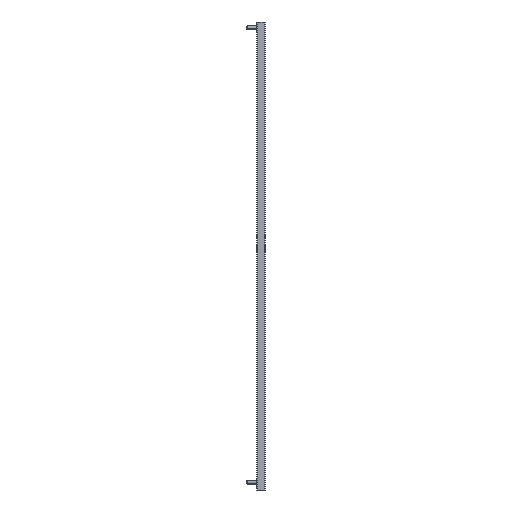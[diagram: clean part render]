
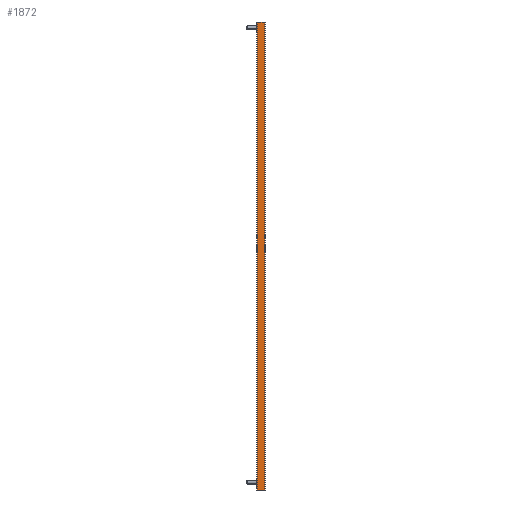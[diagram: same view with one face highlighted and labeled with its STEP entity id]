
A CAD part, left-side view. The second image highlights one B-rep face of the part: STEP entity #1872.
In plain terms, the highlighted planar face has unit normal (-1, 0, 0).
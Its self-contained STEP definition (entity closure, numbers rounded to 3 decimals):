
#30 = CARTESIAN_POINT ( 'NONE',  ( -8., 9.3, 0. ) ) ;
#42 = VERTEX_POINT ( 'NONE', #2204 ) ;
#170 = ORIENTED_EDGE ( 'NONE', *, *, #4101, .T. ) ;
#185 = VECTOR ( 'NONE', #1623, 1000. ) ;
#347 = CARTESIAN_POINT ( 'NONE',  ( -8., 0., 0. ) ) ;
#436 = LINE ( 'NONE', #772, #4328 ) ;
#448 = CARTESIAN_POINT ( 'NONE',  ( -8., 12.5, 679. ) ) ;
#454 = ORIENTED_EDGE ( 'NONE', *, *, #2620, .T. ) ;
#480 = VECTOR ( 'NONE', #4123, 1000. ) ;
#526 = CARTESIAN_POINT ( 'NONE',  ( -8., 0., 679. ) ) ;
#556 = VERTEX_POINT ( 'NONE', #3178 ) ;
#649 = DIRECTION ( 'NONE',  ( 0., -1., 0. ) ) ;
#659 = LINE ( 'NONE', #2710, #480 ) ;
#699 = VERTEX_POINT ( 'NONE', #448 ) ;
#709 = LINE ( 'NONE', #4124, #3362 ) ;
#772 = CARTESIAN_POINT ( 'NONE',  ( -8., 12.5, 679. ) ) ;
#782 = CARTESIAN_POINT ( 'NONE',  ( -8., 12.5, 0. ) ) ;
#840 = LINE ( 'NONE', #3665, #2848 ) ;
#911 = CARTESIAN_POINT ( 'NONE',  ( -8., 0., 679. ) ) ;
#930 = DIRECTION ( 'NONE',  ( 0., 0., 1. ) ) ;
#1213 = CARTESIAN_POINT ( 'NONE',  ( -8., 3.2, 0. ) ) ;
#1390 = EDGE_CURVE ( 'NONE', #4276, #556, #4082, .T. ) ;
#1442 = VECTOR ( 'NONE', #4174, 1000. ) ;
#1479 = VECTOR ( 'NONE', #4353, 1000. ) ;
#1517 = ORIENTED_EDGE ( 'NONE', *, *, #2293, .T. ) ;
#1536 = VERTEX_POINT ( 'NONE', #1213 ) ;
#1539 = ORIENTED_EDGE ( 'NONE', *, *, #1390, .T. ) ;
#1594 = DIRECTION ( 'NONE',  ( 0., -1., 0. ) ) ;
#1607 = ORIENTED_EDGE ( 'NONE', *, *, #1613, .F. ) ;
#1613 = EDGE_CURVE ( 'NONE', #699, #1720, #1694, .T. ) ;
#1623 = DIRECTION ( 'NONE',  ( 0., 1., 0. ) ) ;
#1694 = LINE ( 'NONE', #3774, #4335 ) ;
#1720 = VERTEX_POINT ( 'NONE', #2838 ) ;
#1748 = CARTESIAN_POINT ( 'NONE',  ( -8., 0., 679. ) ) ;
#1872 = ADVANCED_FACE ( 'NONE', ( #2646 ), #2668, .T. ) ;
#1897 = ORIENTED_EDGE ( 'NONE', *, *, #3891, .T. ) ;
#2016 = VERTEX_POINT ( 'NONE', #30 ) ;
#2053 = ORIENTED_EDGE ( 'NONE', *, *, #3648, .F. ) ;
#2169 = DIRECTION ( 'NONE',  ( 0., 0., 1. ) ) ;
#2204 = CARTESIAN_POINT ( 'NONE',  ( -8., 0., 0. ) ) ;
#2293 = EDGE_CURVE ( 'NONE', #2016, #1536, #2370, .T. ) ;
#2370 = LINE ( 'NONE', #347, #1442 ) ;
#2415 = DIRECTION ( 'NONE',  ( 0., -1., 0. ) ) ;
#2429 = VERTEX_POINT ( 'NONE', #782 ) ;
#2512 = ORIENTED_EDGE ( 'NONE', *, *, #2727, .T. ) ;
#2620 = EDGE_CURVE ( 'NONE', #556, #1720, #3324, .T. ) ;
#2646 = FACE_OUTER_BOUND ( 'NONE', #2700, .T. ) ;
#2668 = PLANE ( 'NONE',  #4200 ) ;
#2700 = EDGE_LOOP ( 'NONE', ( #2053, #2512, #1517, #170, #1897, #1539, #454, #1607 ) ) ;
#2710 = CARTESIAN_POINT ( 'NONE',  ( -8., 0., 679. ) ) ;
#2727 = EDGE_CURVE ( 'NONE', #2429, #2016, #709, .T. ) ;
#2838 = CARTESIAN_POINT ( 'NONE',  ( -8., 9.3, 679. ) ) ;
#2848 = VECTOR ( 'NONE', #1594, 1000. ) ;
#3178 = CARTESIAN_POINT ( 'NONE',  ( -8., 3.2, 679. ) ) ;
#3286 = CARTESIAN_POINT ( 'NONE',  ( -8., 0., 679. ) ) ;
#3324 = LINE ( 'NONE', #526, #1479 ) ;
#3326 = DIRECTION ( 'NONE',  ( -1., 0., 0. ) ) ;
#3362 = VECTOR ( 'NONE', #2415, 1000. ) ;
#3648 = EDGE_CURVE ( 'NONE', #2429, #699, #436, .T. ) ;
#3665 = CARTESIAN_POINT ( 'NONE',  ( -8., 0., 0. ) ) ;
#3774 = CARTESIAN_POINT ( 'NONE',  ( -8., 12.5, 679. ) ) ;
#3891 = EDGE_CURVE ( 'NONE', #42, #4276, #659, .T. ) ;
#4082 = LINE ( 'NONE', #911, #185 ) ;
#4101 = EDGE_CURVE ( 'NONE', #1536, #42, #840, .T. ) ;
#4123 = DIRECTION ( 'NONE',  ( 0., 0., 1. ) ) ;
#4124 = CARTESIAN_POINT ( 'NONE',  ( -8., 0., 0. ) ) ;
#4174 = DIRECTION ( 'NONE',  ( 0., -1., 0. ) ) ;
#4200 = AXIS2_PLACEMENT_3D ( 'NONE', #3286, #3326, #930 ) ;
#4276 = VERTEX_POINT ( 'NONE', #1748 ) ;
#4328 = VECTOR ( 'NONE', #2169, 1000. ) ;
#4335 = VECTOR ( 'NONE', #649, 1000. ) ;
#4353 = DIRECTION ( 'NONE',  ( 0., 1., 0. ) ) ;
